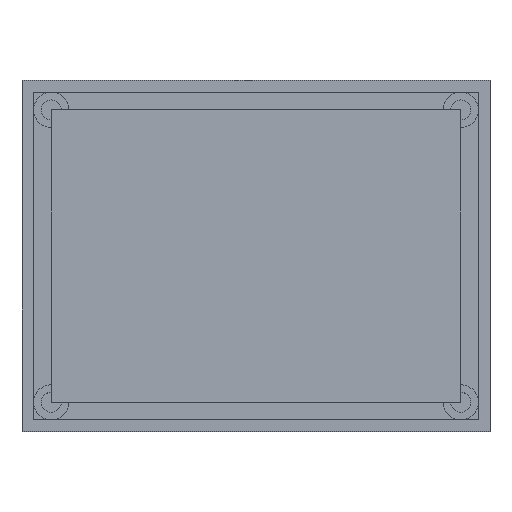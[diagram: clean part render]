
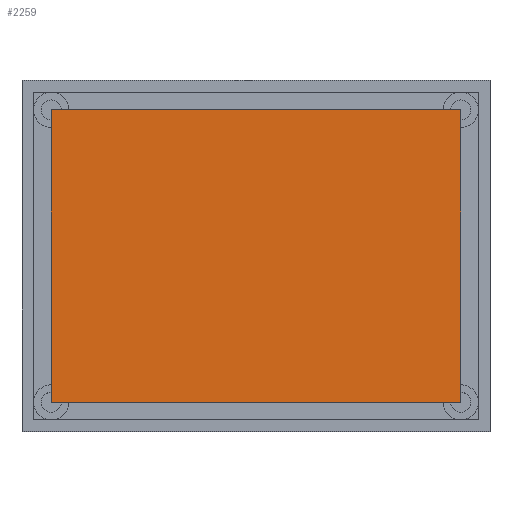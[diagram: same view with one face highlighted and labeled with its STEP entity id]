
A CAD part, top view. The second image highlights one B-rep face of the part: STEP entity #2259.
In plain terms, the highlighted planar face has unit normal (0, 0, 1).
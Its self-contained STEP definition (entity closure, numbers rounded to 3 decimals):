
#1945 = VERTEX_POINT('',#1946);
#1946 = CARTESIAN_POINT('',(-35.,-25.,7.6));
#1953 = PLANE('',#1954);
#1954 = AXIS2_PLACEMENT_3D('',#1955,#1956,#1957);
#1955 = CARTESIAN_POINT('',(-35.,-25.,6.));
#1956 = DIRECTION('',(1.,0.,0.));
#1957 = DIRECTION('',(0.,0.,1.));
#1965 = PLANE('',#1966);
#1966 = AXIS2_PLACEMENT_3D('',#1967,#1968,#1969);
#1967 = CARTESIAN_POINT('',(-35.,-25.,6.));
#1968 = DIRECTION('',(0.,1.,0.));
#1969 = DIRECTION('',(0.,0.,1.));
#2006 = VERTEX_POINT('',#2007);
#2007 = CARTESIAN_POINT('',(-35.,25.,7.6));
#2021 = PLANE('',#2022);
#2022 = AXIS2_PLACEMENT_3D('',#2023,#2024,#2025);
#2023 = CARTESIAN_POINT('',(-35.,25.,6.));
#2024 = DIRECTION('',(0.,1.,0.));
#2025 = DIRECTION('',(0.,0.,1.));
#2033 = EDGE_CURVE('',#1945,#2006,#2034,.T.);
#2034 = SURFACE_CURVE('',#2035,(#2039,#2046),.PCURVE_S1.);
#2035 = LINE('',#2036,#2037);
#2036 = CARTESIAN_POINT('',(-35.,-25.,7.6));
#2037 = VECTOR('',#2038,1.);
#2038 = DIRECTION('',(0.,1.,0.));
#2039 = PCURVE('',#1953,#2040);
#2040 = DEFINITIONAL_REPRESENTATION('',(#2041),#2045);
#2041 = LINE('',#2042,#2043);
#2042 = CARTESIAN_POINT('',(1.6,0.));
#2043 = VECTOR('',#2044,1.);
#2044 = DIRECTION('',(0.,-1.));
#2045 = ( GEOMETRIC_REPRESENTATION_CONTEXT(2) 
PARAMETRIC_REPRESENTATION_CONTEXT() REPRESENTATION_CONTEXT('2D SPACE',''
  ) );
#2046 = PCURVE('',#2047,#2052);
#2047 = PLANE('',#2048);
#2048 = AXIS2_PLACEMENT_3D('',#2049,#2050,#2051);
#2049 = CARTESIAN_POINT('',(-35.,-25.,7.6));
#2050 = DIRECTION('',(0.,0.,1.));
#2051 = DIRECTION('',(1.,0.,0.));
#2052 = DEFINITIONAL_REPRESENTATION('',(#2053),#2057);
#2053 = LINE('',#2054,#2055);
#2054 = CARTESIAN_POINT('',(0.,0.));
#2055 = VECTOR('',#2056,1.);
#2056 = DIRECTION('',(0.,1.));
#2057 = ( GEOMETRIC_REPRESENTATION_CONTEXT(2) 
PARAMETRIC_REPRESENTATION_CONTEXT() REPRESENTATION_CONTEXT('2D SPACE',''
  ) );
#2065 = VERTEX_POINT('',#2066);
#2066 = CARTESIAN_POINT('',(35.,-25.,7.6));
#2073 = PLANE('',#2074);
#2074 = AXIS2_PLACEMENT_3D('',#2075,#2076,#2077);
#2075 = CARTESIAN_POINT('',(35.,-25.,6.));
#2076 = DIRECTION('',(1.,0.,0.));
#2077 = DIRECTION('',(0.,0.,1.));
#2116 = VERTEX_POINT('',#2117);
#2117 = CARTESIAN_POINT('',(35.,25.,7.6));
#2138 = EDGE_CURVE('',#2065,#2116,#2139,.T.);
#2139 = SURFACE_CURVE('',#2140,(#2144,#2151),.PCURVE_S1.);
#2140 = LINE('',#2141,#2142);
#2141 = CARTESIAN_POINT('',(35.,-25.,7.6));
#2142 = VECTOR('',#2143,1.);
#2143 = DIRECTION('',(0.,1.,0.));
#2144 = PCURVE('',#2073,#2145);
#2145 = DEFINITIONAL_REPRESENTATION('',(#2146),#2150);
#2146 = LINE('',#2147,#2148);
#2147 = CARTESIAN_POINT('',(1.6,0.));
#2148 = VECTOR('',#2149,1.);
#2149 = DIRECTION('',(0.,-1.));
#2150 = ( GEOMETRIC_REPRESENTATION_CONTEXT(2) 
PARAMETRIC_REPRESENTATION_CONTEXT() REPRESENTATION_CONTEXT('2D SPACE',''
  ) );
#2151 = PCURVE('',#2047,#2152);
#2152 = DEFINITIONAL_REPRESENTATION('',(#2153),#2157);
#2153 = LINE('',#2154,#2155);
#2154 = CARTESIAN_POINT('',(70.,0.));
#2155 = VECTOR('',#2156,1.);
#2156 = DIRECTION('',(0.,1.));
#2157 = ( GEOMETRIC_REPRESENTATION_CONTEXT(2) 
PARAMETRIC_REPRESENTATION_CONTEXT() REPRESENTATION_CONTEXT('2D SPACE',''
  ) );
#2184 = EDGE_CURVE('',#1945,#2065,#2185,.T.);
#2185 = SURFACE_CURVE('',#2186,(#2190,#2197),.PCURVE_S1.);
#2186 = LINE('',#2187,#2188);
#2187 = CARTESIAN_POINT('',(-35.,-25.,7.6));
#2188 = VECTOR('',#2189,1.);
#2189 = DIRECTION('',(1.,0.,0.));
#2190 = PCURVE('',#1965,#2191);
#2191 = DEFINITIONAL_REPRESENTATION('',(#2192),#2196);
#2192 = LINE('',#2193,#2194);
#2193 = CARTESIAN_POINT('',(1.6,0.));
#2194 = VECTOR('',#2195,1.);
#2195 = DIRECTION('',(0.,1.));
#2196 = ( GEOMETRIC_REPRESENTATION_CONTEXT(2) 
PARAMETRIC_REPRESENTATION_CONTEXT() REPRESENTATION_CONTEXT('2D SPACE',''
  ) );
#2197 = PCURVE('',#2047,#2198);
#2198 = DEFINITIONAL_REPRESENTATION('',(#2199),#2203);
#2199 = LINE('',#2200,#2201);
#2200 = CARTESIAN_POINT('',(0.,0.));
#2201 = VECTOR('',#2202,1.);
#2202 = DIRECTION('',(1.,0.));
#2203 = ( GEOMETRIC_REPRESENTATION_CONTEXT(2) 
PARAMETRIC_REPRESENTATION_CONTEXT() REPRESENTATION_CONTEXT('2D SPACE',''
  ) );
#2231 = EDGE_CURVE('',#2006,#2116,#2232,.T.);
#2232 = SURFACE_CURVE('',#2233,(#2237,#2244),.PCURVE_S1.);
#2233 = LINE('',#2234,#2235);
#2234 = CARTESIAN_POINT('',(-35.,25.,7.6));
#2235 = VECTOR('',#2236,1.);
#2236 = DIRECTION('',(1.,0.,0.));
#2237 = PCURVE('',#2021,#2238);
#2238 = DEFINITIONAL_REPRESENTATION('',(#2239),#2243);
#2239 = LINE('',#2240,#2241);
#2240 = CARTESIAN_POINT('',(1.6,0.));
#2241 = VECTOR('',#2242,1.);
#2242 = DIRECTION('',(0.,1.));
#2243 = ( GEOMETRIC_REPRESENTATION_CONTEXT(2) 
PARAMETRIC_REPRESENTATION_CONTEXT() REPRESENTATION_CONTEXT('2D SPACE',''
  ) );
#2244 = PCURVE('',#2047,#2245);
#2245 = DEFINITIONAL_REPRESENTATION('',(#2246),#2250);
#2246 = LINE('',#2247,#2248);
#2247 = CARTESIAN_POINT('',(0.,50.));
#2248 = VECTOR('',#2249,1.);
#2249 = DIRECTION('',(1.,0.));
#2250 = ( GEOMETRIC_REPRESENTATION_CONTEXT(2) 
PARAMETRIC_REPRESENTATION_CONTEXT() REPRESENTATION_CONTEXT('2D SPACE',''
  ) );
#2259 = ADVANCED_FACE('',(#2260),#2047,.T.);
#2260 = FACE_BOUND('',#2261,.T.);
#2261 = EDGE_LOOP('',(#2262,#2263,#2264,#2265));
#2262 = ORIENTED_EDGE('',*,*,#2033,.F.);
#2263 = ORIENTED_EDGE('',*,*,#2184,.T.);
#2264 = ORIENTED_EDGE('',*,*,#2138,.T.);
#2265 = ORIENTED_EDGE('',*,*,#2231,.F.);
